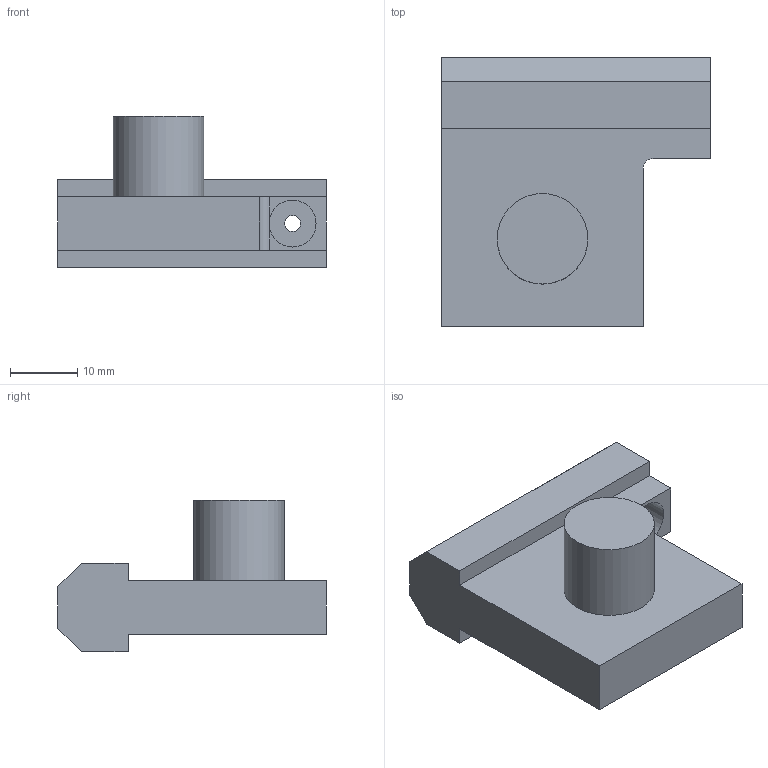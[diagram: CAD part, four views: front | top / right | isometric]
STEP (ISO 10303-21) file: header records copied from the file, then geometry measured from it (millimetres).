
FILE_DESCRIPTION (( 'STEP AP214' ), '1' );
FILE_NAME ('SL04004.step', '2024-12-03T16:31:14', ( '' ), ( '' ), 'SwSTEP 2.0', 'SolidWorks 2023', '' );
FILE_SCHEMA (( 'AUTOMOTIVE_DESIGN' ));
Length unit declared in the file: millimetre
Products named in the file (1): SL04004
Bounding box: 40 x 40 x 22.6 mm (x, y, z)
Volume: 13920.3 mm3; surface area: 5225.5 mm2
Topology: 1 solids, 1 shells, 41 faces, 93 edges, 62 vertices
Faces by surface type: plane 31, cylinder 10
Full cylindrical faces by diameter (mm): 2.4 x1, 7 x1, 13.5 x1, 16.5 x1, 17 x1
Entity records: 1131 total; most frequent: DIRECTION 190, CARTESIAN_POINT 188, ORIENTED_EDGE 172, EDGE_CURVE 86, VECTOR 66, LINE 66, AXIS2_PLACEMENT_3D 62, VERTEX_POINT 60
